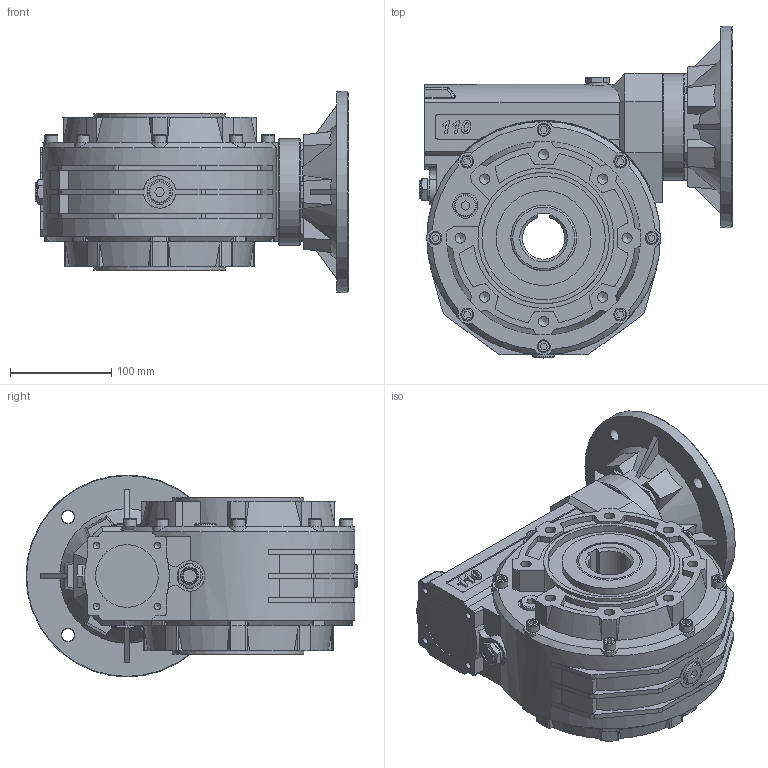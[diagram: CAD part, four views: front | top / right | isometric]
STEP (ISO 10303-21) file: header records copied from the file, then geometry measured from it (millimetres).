
FILE_DESCRIPTION( ( 'Unknown' ), '1' );
FILE_NAME( 'E:/services/configuratordownloads/customers/HYDROMEC/VSF/download/7F50B8D534DDBE23C92B45E99486B16E/STEP/7F50B8D534DDBE23C92B45E99486B16E.3d.stp', 'Unknown', ( 'Unknown' ), ( 'Unknown' ), 'PSStep 10.1', 'Unknown', ' ' );
FILE_SCHEMA( ( 'AUTOMOTIVE_DESIGN { 1 0 10303 214 1 1 1 1 }' ) );
Length unit declared in the file: millimetre
Products named in the file (1): 1108800N
Bounding box: 310 x 328.34 x 199.69 mm (x, y, z)
Volume: 6950022.9 mm3; surface area: 417049.6 mm2
Topology: 1 solids, 8 shells, 895 faces, 2357 edges, 1542 vertices
Faces by surface type: plane 485, cylinder 282, cone 88, extrusion 16, torus 14, bspline 8, sphere 2
Full cylindrical faces by diameter (mm): 1.5 x1, 4.917 x6, 6.647 x4, 10.106 x16, 12.5 x4, 12.8 x8, 13 x1, 18 x1, 21 x1, 21.5 x1, 22 x2, 25 x4, 55 x1, 62 x1, 63 x1, 65 x3, 75 x2, 85 x1, 90 x2, 93.5 x1, 93.8 x1, 94 x1, 105 x1, 122 x2, 130 x3, 138 x1, 231 x1
Entity records: 37418 total; most frequent: CARTESIAN_POINT 6839, DIRECTION 4371, ORIENTED_EDGE 4286, EDGE_CURVE 2143, AXIS2_PLACEMENT_3D 1586, VERTEX_POINT 1487, PRESENTATION_STYLE_ASSIGNMENT 1424, COLOUR_RGB 1424
